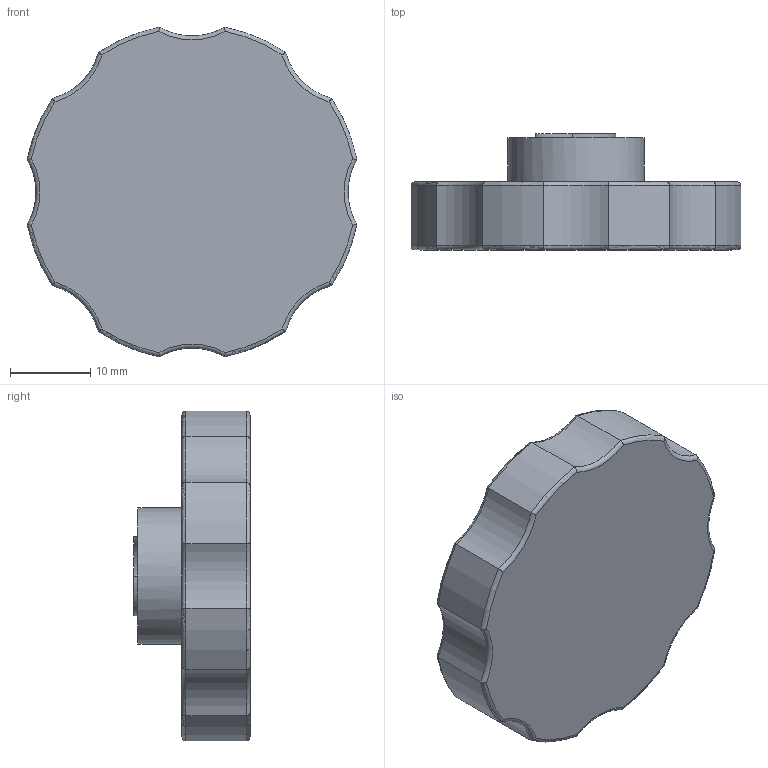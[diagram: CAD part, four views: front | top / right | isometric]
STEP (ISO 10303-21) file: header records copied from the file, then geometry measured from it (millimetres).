
FILE_DESCRIPTION(/* description */ (''),/* implementation_level */ '2;1');
FILE_NAME(/* name */ 'H:\5-Olympiades\47e\Sujet Régional\Etau\A donner aux candidats\2-Après-Midi\20-Bouton de serrage.stp',/* time_stamp */ '2022-03-30T09:35:22+02:00',/* author */ ('Philippe'),/* organization */ (''),/* preprocessor_version */ 'ST-DEVELOPER v18',/* originating_system */ 'Autodesk Inventor 2020',/* authorisation */ '');
FILE_SCHEMA (('CONFIG_CONTROL_DESIGN'));
Length unit declared in the file: millimetre
Products named in the file (1): 20-Bouton de serrage
Bounding box: 41.21 x 14.5 x 41.21 mm (x, y, z)
Volume: 6268.1 mm3; surface area: 6208.3 mm2
Topology: 1 solids, 2 shells, 119 faces, 301 edges, 187 vertices
Faces by surface type: torus 48, plane 36, cylinder 35
Full cylindrical faces by diameter (mm): 8.376 x1, 17 x1
Entity records: 4165 total; most frequent: CARTESIAN_POINT 1230, DIRECTION 646, ORIENTED_EDGE 598, EDGE_CURVE 301, AXIS2_PLACEMENT_3D 273, VERTEX_POINT 187, CIRCLE 153, EDGE_LOOP 121
